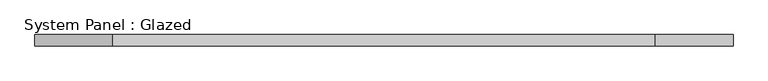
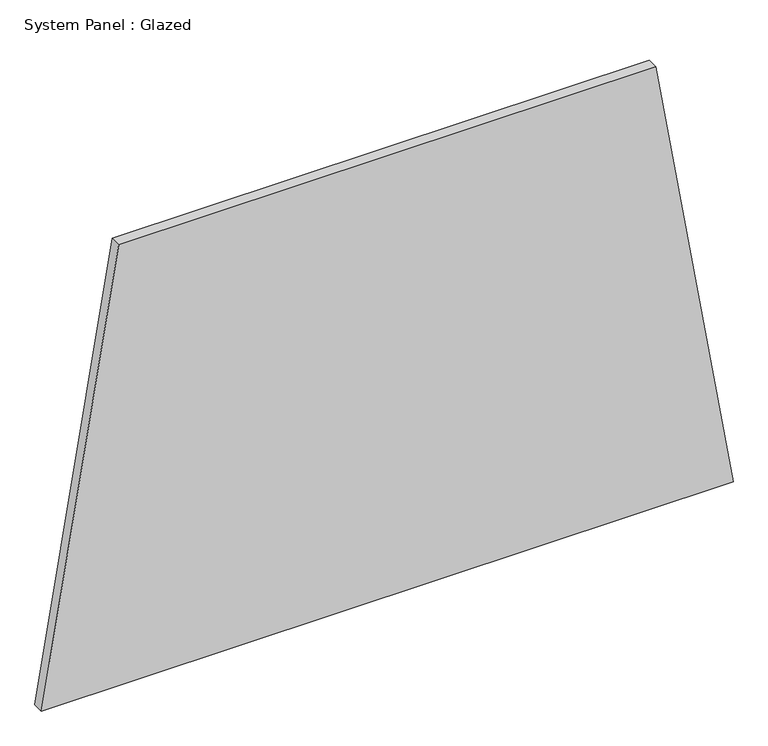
"""IFC4 building model written with IfcOpenShell, lengths in millimetres: plate geometry, System Panel : Glazed."""

from ifc_helpers import new_model, si_unit, frame, origin, place, context, project, spatial, polyline, outline, extrude, source, transform, mapped, element, save


def system_panel_glazed_2223643d(model_context):
    return source(origin(), model_context, "Body", "SweptSolid", [
        extrude(outline(polyline([(0.0, -781.344405), (0.0, 781.344405), (1052.4683812, 607.0671931), (1052.4683812, -607.0671931), (0.0, -781.344405)])), frame((0.0, -44.45, 0.0), z_axis=(0.0, 1.0, 0.0), x_axis=(0.0, 0.0, 1.0)), (0.0, 0.0, 1.0), 25.4),
    ])


if __name__ == "__main__":
    model = new_model("IFC4")
    model_context = context("Model", 3, world=origin())
    ifc_project = project(units=[si_unit("LENGTHUNIT", "METRE", prefix="MILLI")], contexts=[model_context])
    site = spatial("IfcSite", under=ifc_project)
    building = spatial("IfcBuilding", under=site)
    placement = place(None, origin())
    system_panel_glazed_shape = system_panel_glazed_2223643d(model_context)
    element("IfcPlate", 1, ObjectType="System Panel : Glazed", at=placement, inside=building, context=model_context, shape_type="MappedRepresentation", body=[
        mapped(system_panel_glazed_shape, transform((0.0, 0.0, 0.0), x_axis=(1.0, 0.0, 0.0), y_axis=(0.0, 1.0, 0.0), z_axis=(0.0, 0.0, 1.0))),
    ])
    save(model, "model.ifc")
